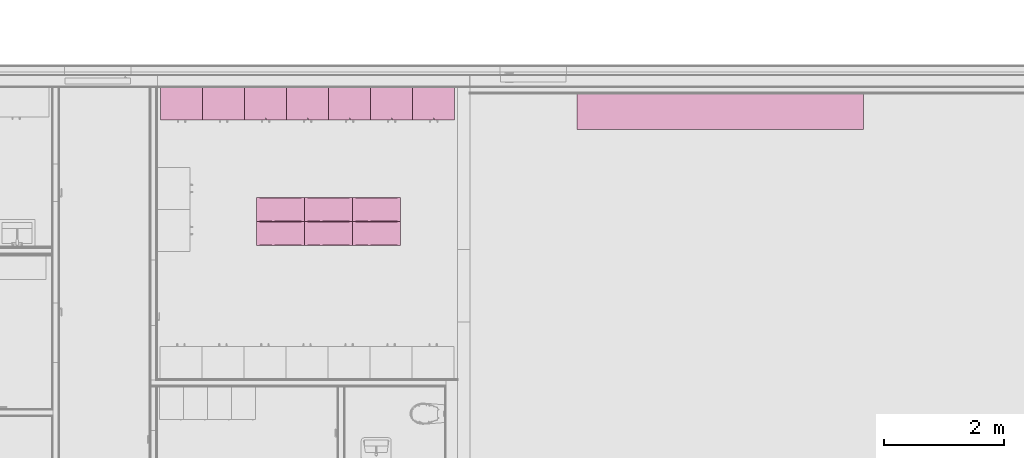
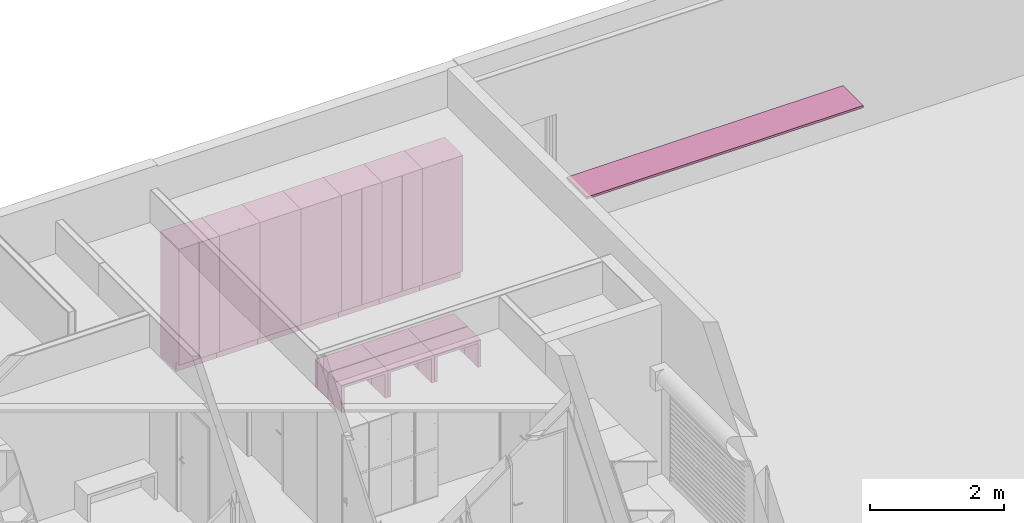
# One storey, part 34 of 67: 14 furniture elements.
"""IFC4 building model written with IfcOpenShell, lengths in millimetres."""

from ifc_helpers import new_model, entity, si_unit, converted_unit, direction, frame, origin, place, context, subcontext, project, spatial, indexed_curve, outline, extrude, polygons, source, transform, mapped, material, constituent, constituent_set, type_object, type_shapes, element, save


model = new_model("IFC4")

# Units and contexts
model_context = context("Model", 3, precision=0.01, world=origin(), true_north=direction((0.0, 1.0)))
body_context = subcontext(model_context, "Body", "Model", "MODEL_VIEW")
ifc_project = project(units=[si_unit("LENGTHUNIT", "METRE", prefix="MILLI"), si_unit("AREAUNIT", "SQUARE_METRE"), si_unit("VOLUMEUNIT", "CUBIC_METRE"), converted_unit("PLANEANGLEUNIT", "DEGREE", entity("IfcPlaneAngleMeasure", 0.017453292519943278), si_unit("PLANEANGLEUNIT", "RADIAN"), dimensions=[0, 0, 0, 0, 0, 0, 0])], contexts=[model_context])

# Site, building, storey, space
site_placement = place(None, origin())
site = spatial("IfcSite", under=ifc_project, at=site_placement, Name="Tomtens navn", CompositionType="ELEMENT")
building_placement = place(site_placement, origin())
building = spatial("IfcBuilding", under=site, at=building_placement, Name="Byggets navn", CompositionType="ELEMENT")
storey_placement = place(building_placement, origin())
storey = spatial("IfcBuildingStorey", under=building, at=storey_placement, Name="Level 01", CompositionType="ELEMENT", Elevation=2.1993652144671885e-25)
space_1_placement = place(storey_placement, origin())
space_1 = spatial("IfcSpace", under=storey, at=space_1_placement, Name="102", CompositionType="ELEMENT", PredefinedType="NOTDEFINED")

# Furniture
ifc_material_1 = material(Name="PLANK_WOOD_NATURAL")
furniture_type_1 = type_object("IfcFurnitureType", Name="PLANK_BENCH_TABLE:0660-01 NATURAL", AssemblyPlace="NOTDEFINED", PredefinedType="NOTDEFINED", material=ifc_material_1)
shared_shape_1 = source(origin(), body_context, "Body", "Tessellation", [
    polygons([(-399.9999999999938, 200.00000000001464, 449.9999996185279), (-350.00000801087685, 200.00000000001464, 449.9999996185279), (-350.00000801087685, 200.00000000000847, 5.000115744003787), (-399.9999999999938, 200.00000000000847, 5.000115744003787), (-399.9999999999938, -199.99999999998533, 449.99999961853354), (-399.9999999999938, -199.99999999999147, 5.000115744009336), (-350.00000801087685, -199.99999999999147, 5.000115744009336), (-350.00000801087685, -199.99999999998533, 449.99999961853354)], [[[1, 2, 3, 4]], [[5, 6, 7, 8]], [[4, 6, 5, 1]], [[3, 7, 6, 4]], [[2, 8, 7, 3]], [[1, 5, 8, 2]]], closed=True),
    polygons([(-352.9999702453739, 197.00000371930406, 449.99999961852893), (-396.9999734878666, 197.00000371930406, 449.99999961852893), (-396.9999734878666, 197.00000371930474, 500.0000000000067), (-352.9999702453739, 197.00000371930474, 500.0000000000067), (-352.9999702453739, -197.00000371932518, 449.99999961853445), (-352.9999702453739, -197.0000037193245, 500.0000000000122), (-396.9999734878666, -197.0000037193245, 500.0000000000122), (-396.9999734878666, -197.00000371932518, 449.99999961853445)], [[[1, 2, 3, 4]], [[5, 6, 7, 8]], [[1, 5, 8, 2]], [[2, 8, 7, 3]], [[3, 7, 6, 4]], [[4, 6, 5, 1]]], closed=True),
    polygons([(352.99997024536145, 197.0000037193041, 449.99999961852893), (352.99997024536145, 197.00000371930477, 500.0000000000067), (396.9999734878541, 197.00000371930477, 500.0000000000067), (396.9999734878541, 197.0000037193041, 449.99999961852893), (352.99997024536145, -197.00000371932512, 449.99999961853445), (396.9999734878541, -197.00000371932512, 449.99999961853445), (396.9999734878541, -197.00000371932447, 500.0000000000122), (352.99997024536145, -197.00000371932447, 500.0000000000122)], [[[1, 2, 3, 4]], [[5, 6, 7, 8]], [[4, 6, 5, 1]], [[3, 7, 6, 4]], [[2, 8, 7, 3]], [[1, 5, 8, 2]]], closed=True),
    polygons([(350.0000080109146, 200.00000000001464, 449.9999996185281), (-399.99999999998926, 200.00000000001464, 449.9999996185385), (-399.99999999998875, 200.00000000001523, 494.99999999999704), (400.00000000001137, 200.00000000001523, 494.99999999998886), (400.00000000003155, 200.00000000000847, 5.000115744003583), (350.0000080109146, 200.00000000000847, 5.000115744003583), (400.00000000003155, -199.99999999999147, 5.000115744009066), (400.0000000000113, -199.9999999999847, 495.0000000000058), (-399.99999999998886, -199.9999999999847, 495.000000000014), (-399.99999999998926, -199.99999999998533, 449.9999996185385), (350.0000080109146, -199.99999999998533, 449.9999996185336), (350.0000080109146, -199.99999999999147, 5.0001157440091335), (400.00000000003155, 198.53553390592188, 498.5355339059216), (400.00000000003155, 194.9999999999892, 499.99999999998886), (400.00000000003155, -194.9999999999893, 500.0000000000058), (400.00000000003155, -198.535533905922, 498.53553390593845), (-399.99999999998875, -194.99999999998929, 500.0000000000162), (-399.99999999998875, 194.99999999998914, 499.99999999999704), (-399.99999999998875, 198.53553390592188, 498.5355339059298), (-399.99999999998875, -198.53553390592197, 498.53553390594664), (-87.69244849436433, 199.99999999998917, 494.99999999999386), (1.6826080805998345e-06, 194.99999999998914, 499.99999999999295), (-199.99999747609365, 194.99999999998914, 499.999999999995), (-321.9231148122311, 194.99999999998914, 499.9999999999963), (-99.99999789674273, 194.99999999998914, 499.9999999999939), (156.15377575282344, 199.99999999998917, 494.99999999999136), (-243.84622424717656, 199.99999999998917, 494.9999999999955), (-165.76934169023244, 199.99999999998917, 494.99999999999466), (34.23066362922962, 199.99999999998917, 494.99999999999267), (200.00000084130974, 194.99999999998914, 499.9999999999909), (-321.92310680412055, 199.99999999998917, 494.9999999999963), (-260.9615561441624, 194.99999999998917, 499.9999999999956), (100.00000126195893, 194.99999999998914, 499.9999999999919), (278.0768878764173, 199.99999999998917, 494.99999999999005), (217.1153318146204, 199.99999999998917, 494.99999999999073), (95.19221969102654, 199.99999999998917, 494.999999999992), (300.0000004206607, 194.99999999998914, 499.9999999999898), (339.03844393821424, 199.99999999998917, 494.99999999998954), (350.000000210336, 194.99999999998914, 499.9999999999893), (-360.9615590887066, 194.99999999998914, 499.99999999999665), (-360.96155340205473, 199.99999999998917, 494.9999999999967), (360.96155340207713, 199.99999999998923, 494.99999999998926), (350.0000005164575, 198.64073889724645, 498.42710085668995), (308.5576605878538, 199.99999999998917, 494.9999999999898), (293.3172762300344, 198.69834967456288, 498.36484913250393), (250.0000006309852, 194.99999999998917, 499.99999999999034), (261.96770234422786, 198.63739676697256, 498.43064786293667), (229.37306912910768, 198.28255654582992, 498.77158090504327), (325.000001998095, 194.99999999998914, 499.9999999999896), (247.59611516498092, 199.99999999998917, 494.9999999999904), (186.63454846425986, 199.99999999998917, 494.999999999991), (150.00000105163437, 194.99999999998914, 499.99999999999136), (171.39416330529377, 198.32951222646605, 498.73019414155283), (321.6735505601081, 198.80049153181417, 498.249040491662), (-49.999998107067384, 194.99999999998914, 499.9999999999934), (-26.73089243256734, 199.99999999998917, 494.99999999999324), (3.749890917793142, 199.99999999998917, 494.9999999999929), (50.00000147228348, 194.99999999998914, 499.99999999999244), (18.990272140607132, 198.41958100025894, 498.64780287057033), (-11.969163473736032, 198.60127935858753, 498.46854248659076), (-57.211675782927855, 199.99999999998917, 494.9999999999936), (-72.4520625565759, 198.2857730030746, 498.76877908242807), (140.92354430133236, 198.66599704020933, 498.40006848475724), (125.67300304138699, 199.99999999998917, 494.99999999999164), (48.65790955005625, 198.71416126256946, 498.34738795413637), (64.711436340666, 199.99999999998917, 494.9999999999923), (74.99999968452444, 194.99999999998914, 499.99999999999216), (87.50000284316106, 198.44817128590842, 498.6207892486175), (114.42226750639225, 198.02104005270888, 498.98413315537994), (-42.33090610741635, 198.67807906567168, 498.38699489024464), (-341.442329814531, 198.53553367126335, 498.53553414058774), (200.41675906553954, 198.73560483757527, 498.3234404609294), (-126.73089509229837, 199.99999999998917, 494.99999999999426), (-149.9999976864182, 194.99999999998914, 499.9999999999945), (-311.6830777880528, 198.53553385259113, 498.5355339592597), (-282.8846602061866, 199.99999999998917, 494.9999999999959), (-291.44233716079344, 194.99999999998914, 499.99999999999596), (-276.20194029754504, 198.36484910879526, 498.6983496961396), (-246.2875858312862, 198.34456545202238, 498.7167031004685), (-204.80778828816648, 199.99999999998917, 494.99999999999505), (-230.48077512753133, 194.99999999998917, 499.9999999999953), (-215.45618629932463, 198.43424149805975, 498.63400403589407), (-182.70042828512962, 198.52430130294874, 498.5467309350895), (-153.3150496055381, 198.6613265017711, 498.4050973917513), (-124.99999947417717, 194.99999999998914, 499.9999999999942), (-112.49999538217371, 198.5764328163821, 498.4941563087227), (-370.72116792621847, 198.50202572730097, 498.568727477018), (-87.69245690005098, -194.99999999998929, 500.00000000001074), (1.12685860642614e-11, -199.99999999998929, 495.00000000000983), (-199.99999999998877, -199.99999999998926, 495.00000000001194), (-321.92311410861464, -199.9999999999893, 495.00000000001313), (-99.99999999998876, -199.99999999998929, 495.00000000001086), (156.15377154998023, -194.99999999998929, 500.00000000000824), (-243.84622845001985, -194.99999999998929, 500.00000000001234), (-165.7693426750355, -194.99999999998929, 500.00000000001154), (34.23065514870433, -194.9999999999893, 500.0000000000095), (200.00000000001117, -199.99999999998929, 495.0000000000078), (-321.9231142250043, -194.99999999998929, 500.0000000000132), (-260.9615570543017, -199.99999999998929, 495.00000000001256), (100.0000000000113, -199.99999999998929, 495.0000000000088), (278.0768879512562, -194.99999999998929, 500.00000000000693), (217.1153275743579, -194.9999999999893, 500.0000000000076), (95.19221552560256, -194.99999999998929, 500.0000000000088), (300.0000000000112, -199.99999999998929, 495.00000000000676), (339.0384439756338, -194.99999999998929, 500.0000000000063), (350.0000000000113, -199.99999999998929, 495.0000000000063), (-360.96155705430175, -199.99999999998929, 495.00000000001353), (-360.96155493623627, -194.99999999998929, 500.0000000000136), (360.96155493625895, -194.99999999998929, 500.00000000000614), (350.00000051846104, -198.42710085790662, 498.64073889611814), (308.5576681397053, -194.99999999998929, 500.00000000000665), (293.3172762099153, -198.36484913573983, 498.69834967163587), (250.0000000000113, -199.99999999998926, 495.0000000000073), (261.9677023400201, -198.43064786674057, 498.6373967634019), (229.37306911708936, -198.7715809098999, 498.28255654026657), (325.00000000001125, -199.99999999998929, 495.00000000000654), (247.59610776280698, -194.99999999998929, 500.0000000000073), (186.63454738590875, -194.99999999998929, 500.00000000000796), (150.0000000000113, -199.99999999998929, 495.00000000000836), (171.3941632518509, -198.7301941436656, 498.32951222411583), (321.6735505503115, -198.24904049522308, 498.80049152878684), (-49.999999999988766, -199.99999999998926, 495.00000000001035), (-26.73090087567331, -194.99999999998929, 500.0000000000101), (3.7498749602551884, -194.99999999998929, 500.0000000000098), (50.00000000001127, -199.99999999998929, 495.00000000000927), (18.99027204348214, -198.64780287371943, 498.41958099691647), (-11.969163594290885, -198.4685425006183, 498.60127934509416), (-57.21167671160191, -194.99999999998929, 500.00000000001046), (-72.45206267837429, -198.7687790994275, 498.28577298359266), (140.92354423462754, -198.40006849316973, 498.66599703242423), (125.67299571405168, -194.99999999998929, 500.0000000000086), (48.65790944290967, -198.34738796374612, 498.71416125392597), (64.71143533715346, -194.9999999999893, 500.00000000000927), (75.00000000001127, -199.99999999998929, 495.00000000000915), (87.50000289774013, -198.62078925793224, 498.4481712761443), (114.42226750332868, -198.98413316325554, 498.02104004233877), (-42.33090623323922, -198.3869949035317, 498.67807905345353), (-341.4423288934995, -198.53553402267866, 498.5355337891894), (200.41675903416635, -198.32344046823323, 498.73560483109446), (-126.73090196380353, -194.99999999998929, 500.00000000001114), (-149.9999999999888, -199.99999999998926, 495.00000000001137), (-311.6830779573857, -198.53553392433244, 498.53553388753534), (-282.8846735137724, -194.99999999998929, 500.00000000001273), (-291.4423355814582, -199.99999999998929, 495.0000000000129), (-276.20194013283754, -198.69834968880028, 498.3648491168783), (-246.28758572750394, -198.71670310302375, 498.34456544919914), (-204.80778338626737, -194.99999999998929, 500.00000000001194), (-230.48077852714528, -199.99999999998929, 495.0000000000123), (-215.45618627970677, -198.63400404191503, 498.43424149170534), (-182.70042835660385, -198.54673093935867, 498.5243012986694), (-153.3150496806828, -198.40509740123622, 498.6613264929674), (-124.99999999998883, -199.99999999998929, 495.00000000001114), (-112.49999528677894, -198.49415631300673, 498.57643281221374), (-370.7211681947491, -198.56872743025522, 498.50202577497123)], [[[1, 2, 3, 41, 31, 76, 27, 80, 28, 73, 21, 61, 56, 57, 29, 66, 36, 64, 26, 51, 35, 50, 34, 44, 38, 42, 4, 5, 6]], [[10, 11, 12, 7, 8, 106, 116, 104, 113, 97, 119, 100, 134, 125, 89, 122, 92, 152, 141, 90, 148, 99, 144, 91, 107, 9]], [[8, 7, 5, 4, 13, 14, 15, 16]], [[12, 6, 5, 7]], [[2, 1, 11, 10]], [[11, 1, 6, 12]], [[3, 2, 10, 9, 20, 17, 18, 19]], [[14, 39, 49, 37, 46, 30, 52, 33, 67, 58, 22, 55, 25, 85, 74, 23, 81, 32, 77, 24, 40, 18, 17, 108, 98, 143, 94, 147, 95, 140, 88, 128, 123, 124, 96, 133, 103, 131, 93, 118, 102, 117, 101, 111, 105, 109, 15]], [[86, 25, 62]], [[26, 63, 53]], [[46, 47, 48]], [[49, 54, 37]], [[60, 59, 57]], [[77, 78, 75]], [[39, 14, 13]], [[71, 40, 24, 77, 75]], [[41, 87, 71]], [[65, 59, 58]], [[85, 86, 84]], [[80, 27, 82]], [[55, 70, 62]], [[37, 54, 45]], [[87, 41, 3]], [[78, 32, 79]], [[63, 52, 53]], [[37, 45, 47]], [[51, 26, 53]], [[68, 66, 65]], [[43, 42, 38]], [[42, 43, 13]], [[39, 13, 43]], [[31, 41, 71, 75, 76]], [[13, 4, 42]], [[87, 19, 18]], [[40, 71, 87]], [[44, 34, 45]], [[38, 54, 43]], [[49, 39, 43]], [[51, 53, 72]], [[45, 34, 47]], [[47, 46, 37]], [[47, 50, 48]], [[48, 30, 46]], [[30, 72, 53]], [[44, 45, 54]], [[35, 48, 50]], [[47, 34, 50]], [[35, 72, 48]], [[69, 68, 33]], [[53, 52, 30]], [[44, 54, 38]], [[43, 54, 49]], [[62, 70, 61]], [[62, 25, 55]], [[29, 57, 59]], [[29, 59, 65]], [[22, 59, 60]], [[59, 22, 58]], [[22, 60, 55]], [[56, 60, 57]], [[21, 62, 61]], [[56, 70, 60]], [[84, 83, 74]], [[33, 52, 69]], [[69, 63, 64]], [[66, 29, 65]], [[63, 26, 64]], [[58, 67, 65]], [[68, 36, 66]], [[65, 67, 68]], [[68, 67, 33]], [[69, 64, 36]], [[36, 68, 69]], [[63, 69, 52]], [[61, 70, 56]], [[60, 70, 55]], [[51, 72, 35]], [[48, 72, 30]], [[27, 78, 79]], [[86, 21, 73]], [[23, 83, 82]], [[76, 75, 78]], [[32, 78, 77]], [[76, 78, 27]], [[28, 80, 83]], [[82, 27, 79]], [[81, 82, 79]], [[82, 83, 80]], [[79, 32, 81]], [[82, 81, 23]], [[28, 83, 84]], [[83, 23, 74]], [[84, 73, 28]], [[74, 85, 84]], [[86, 85, 25]], [[73, 84, 86]], [[21, 86, 62]], [[40, 87, 18]], [[3, 19, 87]], [[153, 92, 129]], [[93, 130, 120]], [[113, 114, 115]], [[116, 121, 104]], [[127, 126, 124]], [[144, 145, 142]], [[106, 8, 16]], [[138, 107, 91, 144, 142]], [[108, 154, 138]], [[132, 126, 125]], [[152, 153, 151]], [[147, 94, 149]], [[122, 137, 129]], [[104, 121, 112]], [[154, 108, 17]], [[145, 99, 146]], [[130, 119, 120]], [[104, 112, 114]], [[118, 93, 120]], [[135, 133, 132]], [[110, 109, 105]], [[109, 110, 16]], [[106, 16, 110]], [[98, 108, 138, 142, 143]], [[16, 15, 109]], [[154, 20, 9]], [[107, 138, 154]], [[111, 101, 112]], [[105, 121, 110]], [[116, 106, 110]], [[118, 120, 139]], [[112, 101, 114]], [[114, 113, 104]], [[114, 117, 115]], [[115, 97, 113]], [[97, 139, 120]], [[111, 112, 121]], [[102, 115, 117]], [[114, 101, 117]], [[102, 139, 115]], [[136, 135, 100]], [[120, 119, 97]], [[111, 121, 105]], [[110, 121, 116]], [[129, 137, 128]], [[129, 92, 122]], [[96, 124, 126]], [[96, 126, 132]], [[89, 126, 127]], [[126, 89, 125]], [[89, 127, 122]], [[123, 127, 124]], [[88, 129, 128]], [[123, 137, 127]], [[151, 150, 141]], [[100, 119, 136]], [[136, 130, 131]], [[133, 96, 132]], [[130, 93, 131]], [[125, 134, 132]], [[135, 103, 133]], [[132, 134, 135]], [[135, 134, 100]], [[136, 131, 103]], [[103, 135, 136]], [[130, 136, 119]], [[128, 137, 123]], [[127, 137, 122]], [[118, 139, 102]], [[115, 139, 97]], [[94, 145, 146]], [[153, 88, 140]], [[90, 150, 149]], [[143, 142, 145]], [[99, 145, 144]], [[143, 145, 94]], [[95, 147, 150]], [[149, 94, 146]], [[148, 149, 146]], [[149, 150, 147]], [[146, 99, 148]], [[149, 148, 90]], [[95, 150, 151]], [[150, 90, 141]], [[151, 140, 95]], [[141, 152, 151]], [[153, 152, 92]], [[140, 151, 153]], [[88, 153, 129]], [[107, 154, 9]], [[17, 20, 154]]], closed=True),
])
type_shapes(furniture_type_1, [shared_shape_1])
for number, where, z_axis, x_axis, name in (
    (1, (65670.0109193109, 20421.46645692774, 0.0), (0.0, 0.0, 1.0), (-1.0, 0.0, 0.0), "PLANK_BENCH_TABLE:0660-01 NATURAL"),
    (2, (66470.0109193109, 20421.46645692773, 0.0), (0.0, 0.0, 1.0), (-1.0, 0.0, 0.0), "PLANK_BENCH_TABLE:0660-01 NATURAL"),
    (3, (65670.0109193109, 20821.466456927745, 0.0), (0.0, 0.0, 1.0), (-1.0, 0.0, 0.0), "PLANK_BENCH_TABLE:0660-01 NATURAL"),
    (4, (66470.01091931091, 20821.466456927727, 0.0), (0.0, 0.0, 1.0), (-1.0, 0.0, 0.0), "PLANK_BENCH_TABLE:0660-01 NATURAL"),
    (5, (67270.01091931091, 20421.46645692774, 0.0), (0.0, 0.0, 1.0), (-1.0, 0.0, 0.0), "PLANK_BENCH_TABLE:0660-01 NATURAL"),
    (6, (67270.01091931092, 20821.466456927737, 0.0), (0.0, 0.0, 1.0), (-1.0, 0.0, 0.0), "PLANK_BENCH_TABLE:0660-01 NATURAL"),
):
    element("IfcFurniture", number, at=place(space_1_placement, frame(where, z_axis=z_axis, x_axis=x_axis)), inside=space_1, type_object=furniture_type_1, material=ifc_material_1, Name=name, PredefinedType="NOTDEFINED", context=body_context, shape_type="MappedRepresentation", body=[
        mapped(shared_shape_1, transform((0.0, 0.0, 0.0), scale=1.0)),
    ])
ifc_material_2 = material(Name="Skåpstomme, vit", Category="Unassigned")
ifc_constituent_1 = constituent(ifc_material_2, Name="Skåpstomme, vit", Category="Unassigned", fraction=0.9406416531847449)
ifc_material_3 = material(Name="Skåpdörr, vit", Category="Unassigned")
ifc_constituent_2 = constituent(ifc_material_3, Name="Skåpdörr, vit", Category="Unassigned", fraction=0.059358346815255)
ifc_constituent_set_1 = constituent_set(constituents=[ifc_constituent_1, ifc_constituent_2])
ifc_constituent_3 = constituent(ifc_material_2, Name="Sockel", Category="Unassigned", fraction=0.484706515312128)
ifc_constituent_4 = constituent(ifc_material_2, Name="Stomme", Category="Unassigned", fraction=0.484706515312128)
ifc_constituent_5 = constituent(ifc_material_3, Name="Dörr", Category="Unassigned", fraction=0.030586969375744)
ifc_constituent_set_2 = constituent_set(constituents=[ifc_constituent_3, ifc_constituent_4, ifc_constituent_5])
furniture_type_2 = type_object("IfcFurnitureType", Name="Wardrobe Double:700", AssemblyPlace="NOTDEFINED", PredefinedType="NOTDEFINED", material=ifc_constituent_set_2)
shared_shape_2 = source(origin(), body_context, "Body", "SweptSolid", [
    extrude(outline(indexed_curve([(-231.9999999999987, -349.99999999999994), (231.99999999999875, -349.99999999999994), (231.99999999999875, 349.99999999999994), (-231.9999999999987, 349.99999999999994), (-231.9999999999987, -349.99999999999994)], self_intersect=False)), frame((-254.58506095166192, -519.8168112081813, 0.0), z_axis=(0.0, 0.0, 1.0), x_axis=(0.0, 1.0, 0.0)), (0.0, 0.0, 1.0), 165.9999999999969),
    extrude(outline(indexed_curve([(-257.4999999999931, -349.99999999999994), (257.4999999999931, -349.99999999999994), (257.4999999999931, 349.99999999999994), (-257.4999999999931, 349.99999999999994), (-257.4999999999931, -349.99999999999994)], self_intersect=False)), frame((-254.58506095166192, -494.3168112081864, 166.0), z_axis=(0.0, 0.0, 1.0), x_axis=(0.0, 1.0, 0.0)), (0.0, 0.0, 1.0), 2112.0),
    extrude(outline(indexed_curve([(-173.9999999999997, -17.50000000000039), (173.99999999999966, -17.500000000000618), (173.9999999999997, 17.50000000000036), (-173.9999999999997, 17.500000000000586), (-173.9999999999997, -17.50000000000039)], self_intersect=False)), frame((-430.58506095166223, -219.31681120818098, 166.0)), (0.0, 0.0, 1.0), 2112.0),
    extrude(outline(indexed_curve([(-173.99999999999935, -17.50000000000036), (173.99999999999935, -17.500000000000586), (173.99999999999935, 17.50000000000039), (-173.99999999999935, 17.500000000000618), (-173.99999999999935, -17.50000000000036)], self_intersect=False)), frame((-78.58506095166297, -219.3168112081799, 166.0)), (0.0, 0.0, 1.0), 2112.000000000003),
])
type_shapes(furniture_type_2, [shared_shape_2])
furniture_1_placement = place(space_1_placement, frame((63768.26846715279, 22109.649645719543, 0.0), z_axis=(0.0, 0.0, 1.0), x_axis=(-1.0, 0.0, 0.0)))
element("IfcFurniture", 7, at=furniture_1_placement, inside=space_1, type_object=furniture_type_2, material=ifc_constituent_set_1, Name="Wardrobe Double:700", PredefinedType="NOTDEFINED", context=body_context, shape_type="MappedRepresentation", body=[
    mapped(shared_shape_2, transform((0.0, 0.0, 0.0), scale=1.0)),
])
ifc_constituent_6 = constituent(ifc_material_2, Name="Skåpstomme, vit", Category="Unassigned", fraction=0.9406416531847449)
ifc_constituent_7 = constituent(ifc_material_3, Name="Skåpdörr, vit", Category="Unassigned", fraction=0.059358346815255)
ifc_constituent_set_3 = constituent_set(constituents=[ifc_constituent_6, ifc_constituent_7])
ifc_constituent_8 = constituent(ifc_material_2, Name="Sockel", Category="Unassigned", fraction=0.484706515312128)
ifc_constituent_9 = constituent(ifc_material_2, Name="Stomme", Category="Unassigned", fraction=0.484706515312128)
ifc_constituent_10 = constituent(ifc_material_3, Name="Dörr", Category="Unassigned", fraction=0.030586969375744)
ifc_constituent_set_4 = constituent_set(constituents=[ifc_constituent_8, ifc_constituent_9, ifc_constituent_10])
furniture_type_3 = type_object("IfcFurnitureType", Name="Wardrobe Double:700", AssemblyPlace="NOTDEFINED", PredefinedType="NOTDEFINED", material=ifc_constituent_set_4)
shared_shape_3 = source(origin(), body_context, "Body", "SweptSolid", [
    extrude(outline(indexed_curve([(-349.99999999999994, -231.9999999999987), (349.99999999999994, -231.9999999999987), (349.99999999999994, 231.99999999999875), (-349.99999999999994, 231.99999999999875), (-349.99999999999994, -231.9999999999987)], self_intersect=False)), frame((-254.58506095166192, 519.8168112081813, 0.0), z_axis=(0.0, 0.0, 1.0), x_axis=(-1.0, 0.0, 0.0)), (0.0, 0.0, 1.0), 165.9999999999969),
    extrude(outline(indexed_curve([(-349.99999999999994, -257.4999999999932), (349.99999999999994, -257.4999999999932), (349.99999999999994, 257.499999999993), (-349.99999999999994, 257.499999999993), (-349.99999999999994, -257.4999999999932)], self_intersect=False)), frame((-254.58506095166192, 494.3168112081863, 166.0), z_axis=(0.0, 0.0, 1.0), x_axis=(-1.0, 0.0, 0.0)), (0.0, 0.0, 1.0), 2112.0),
    extrude(outline(indexed_curve([(-17.50000000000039, -173.9999999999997), (17.500000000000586, -173.9999999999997), (17.50000000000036, 173.9999999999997), (-17.500000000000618, 173.99999999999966), (-17.50000000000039, -173.9999999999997)], self_intersect=False)), frame((-430.58506095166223, 219.31681120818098, 166.0), z_axis=(0.0, 0.0, 1.0), x_axis=(0.0, -1.0, 0.0)), (0.0, 0.0, 1.0), 2112.0),
    extrude(outline(indexed_curve([(-17.500000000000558, -173.9999999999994), (17.50000000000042, -173.9999999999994), (17.500000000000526, 173.99999999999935), (-17.50000000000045, 173.99999999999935), (-17.500000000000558, -173.9999999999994)], self_intersect=False)), frame((-78.58506095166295, 219.31681120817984, 166.0), z_axis=(0.0, 0.0, 1.0), x_axis=(0.0, -1.0, 0.0)), (0.0, 0.0, 1.0), 2112.000000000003),
])
type_shapes(furniture_type_3, [shared_shape_3])
furniture_2_placement = place(space_1_placement, frame((68477.43858905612, 22109.649645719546, 0.0)))
element("IfcFurniture", 8, at=furniture_2_placement, inside=space_1, type_object=furniture_type_3, material=ifc_constituent_set_3, Name="Wardrobe Double:700", PredefinedType="NOTDEFINED", context=body_context, shape_type="MappedRepresentation", body=[
    mapped(shared_shape_3, transform((0.0, 0.0, 0.0), scale=1.0)),
])
ifc_constituent_11 = constituent(ifc_material_2, Name="Skåpstomme, vit", Category="Unassigned", fraction=0.9406416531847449)
ifc_constituent_12 = constituent(ifc_material_3, Name="Skåpdörr, vit", Category="Unassigned", fraction=0.059358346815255)
ifc_constituent_set_5 = constituent_set(constituents=[ifc_constituent_11, ifc_constituent_12])
furniture_3_placement = place(space_1_placement, frame((67777.43858905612, 22109.649645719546, 0.0)))
element("IfcFurniture", 9, at=furniture_3_placement, inside=space_1, type_object=furniture_type_3, material=ifc_constituent_set_5, Name="Wardrobe Double:700", PredefinedType="NOTDEFINED", context=body_context, shape_type="MappedRepresentation", body=[
    mapped(shared_shape_3, transform((0.0, 0.0, 0.0), scale=1.0)),
])
ifc_constituent_13 = constituent(ifc_material_2, Name="Skåpstomme, vit", Category="Unassigned", fraction=0.9406416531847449)
ifc_constituent_14 = constituent(ifc_material_3, Name="Skåpdörr, vit", Category="Unassigned", fraction=0.059358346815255)
ifc_constituent_set_6 = constituent_set(constituents=[ifc_constituent_13, ifc_constituent_14])
furniture_4_placement = place(space_1_placement, frame((67077.43858905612, 22109.649645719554, 0.0)))
element("IfcFurniture", 10, at=furniture_4_placement, inside=space_1, type_object=furniture_type_3, material=ifc_constituent_set_6, Name="Wardrobe Double:700", PredefinedType="NOTDEFINED", context=body_context, shape_type="MappedRepresentation", body=[
    mapped(shared_shape_3, transform((0.0, 0.0, 0.0), scale=1.0)),
])
ifc_constituent_15 = constituent(ifc_material_2, Name="Skåpstomme, vit", Category="Unassigned", fraction=0.9406416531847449)
ifc_constituent_16 = constituent(ifc_material_3, Name="Skåpdörr, vit", Category="Unassigned", fraction=0.059358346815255)
ifc_constituent_set_7 = constituent_set(constituents=[ifc_constituent_15, ifc_constituent_16])
furniture_5_placement = place(space_1_placement, frame((66377.43858905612, 22109.649645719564, 0.0)))
element("IfcFurniture", 11, at=furniture_5_placement, inside=space_1, type_object=furniture_type_3, material=ifc_constituent_set_7, Name="Wardrobe Double:700", PredefinedType="NOTDEFINED", context=body_context, shape_type="MappedRepresentation", body=[
    mapped(shared_shape_3, transform((0.0, 0.0, 0.0), scale=1.0)),
])
ifc_constituent_17 = constituent(ifc_material_2, Name="Skåpstomme, vit", Category="Unassigned", fraction=0.9406416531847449)
ifc_constituent_18 = constituent(ifc_material_3, Name="Skåpdörr, vit", Category="Unassigned", fraction=0.059358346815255)
ifc_constituent_set_8 = constituent_set(constituents=[ifc_constituent_17, ifc_constituent_18])
furniture_6_placement = place(space_1_placement, frame((65677.43858905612, 22109.649645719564, 0.0)))
element("IfcFurniture", 12, at=furniture_6_placement, inside=space_1, type_object=furniture_type_3, material=ifc_constituent_set_8, Name="Wardrobe Double:700", PredefinedType="NOTDEFINED", context=body_context, shape_type="MappedRepresentation", body=[
    mapped(shared_shape_3, transform((0.0, 0.0, 0.0), scale=1.0)),
])
ifc_constituent_19 = constituent(ifc_material_2, Name="Skåpstomme, vit", Category="Unassigned", fraction=0.9406416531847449)
ifc_constituent_20 = constituent(ifc_material_3, Name="Skåpdörr, vit", Category="Unassigned", fraction=0.059358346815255)
ifc_constituent_set_9 = constituent_set(constituents=[ifc_constituent_19, ifc_constituent_20])
furniture_7_placement = place(space_1_placement, frame((64977.43858905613, 22109.649645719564, 0.0)))
element("IfcFurniture", 13, at=furniture_7_placement, inside=space_1, type_object=furniture_type_3, material=ifc_constituent_set_9, Name="Wardrobe Double:700", PredefinedType="NOTDEFINED", context=body_context, shape_type="MappedRepresentation", body=[
    mapped(shared_shape_3, transform((0.0, 0.0, 0.0), scale=1.0)),
])

# Space
space_2_placement = place(storey_placement, frame((68822.85352810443, 8061.466456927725, 0.0)))
space_2 = spatial("IfcSpace", under=storey, at=space_2_placement, Name="116", CompositionType="ELEMENT", PredefinedType="NOTDEFINED")

# Furniture
ifc_material_4 = material(Name="Counter Top", Category="Unassigned")
furniture_type_4 = type_object("IfcFurnitureType", Name="Worktop:600mm Depth uten vask eller utfresning", AssemblyPlace="NOTDEFINED", PredefinedType="NOTDEFINED", material=ifc_material_4)
shared_shape_4 = source(origin(), body_context, "Body", "SweptSolid", [
    extrude(outline(indexed_curve([(-2384.93681958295, -300.00000000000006), (2384.93681958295, -300.00000000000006), (2384.93681958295, 300.00000000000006), (-2384.93681958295, 300.00000000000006), (-2384.93681958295, -300.00000000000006)], self_intersect=False)), frame((1184.474524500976, -300.0, 860.0), z_axis=(0.0, 0.0, 1.0), x_axis=(-1.0, 0.0, 0.0)), (0.0, 0.0, 1.0), 40.000000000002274),
])
type_shapes(furniture_type_4, [shared_shape_4])
furniture_8_placement = place(space_2_placement, frame((2988.1020672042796, 14690.0, 0.0)))
element("IfcFurniture", 14, at=furniture_8_placement, inside=space_2, type_object=furniture_type_4, material=ifc_material_4, Name="Worktop:600mm Depth uten vask eller utfresning", PredefinedType="NOTDEFINED", context=body_context, shape_type="MappedRepresentation", body=[
    mapped(shared_shape_4, transform((0.0, 0.0, 0.0), scale=1.0)),
])

save(model, "model.ifc")
